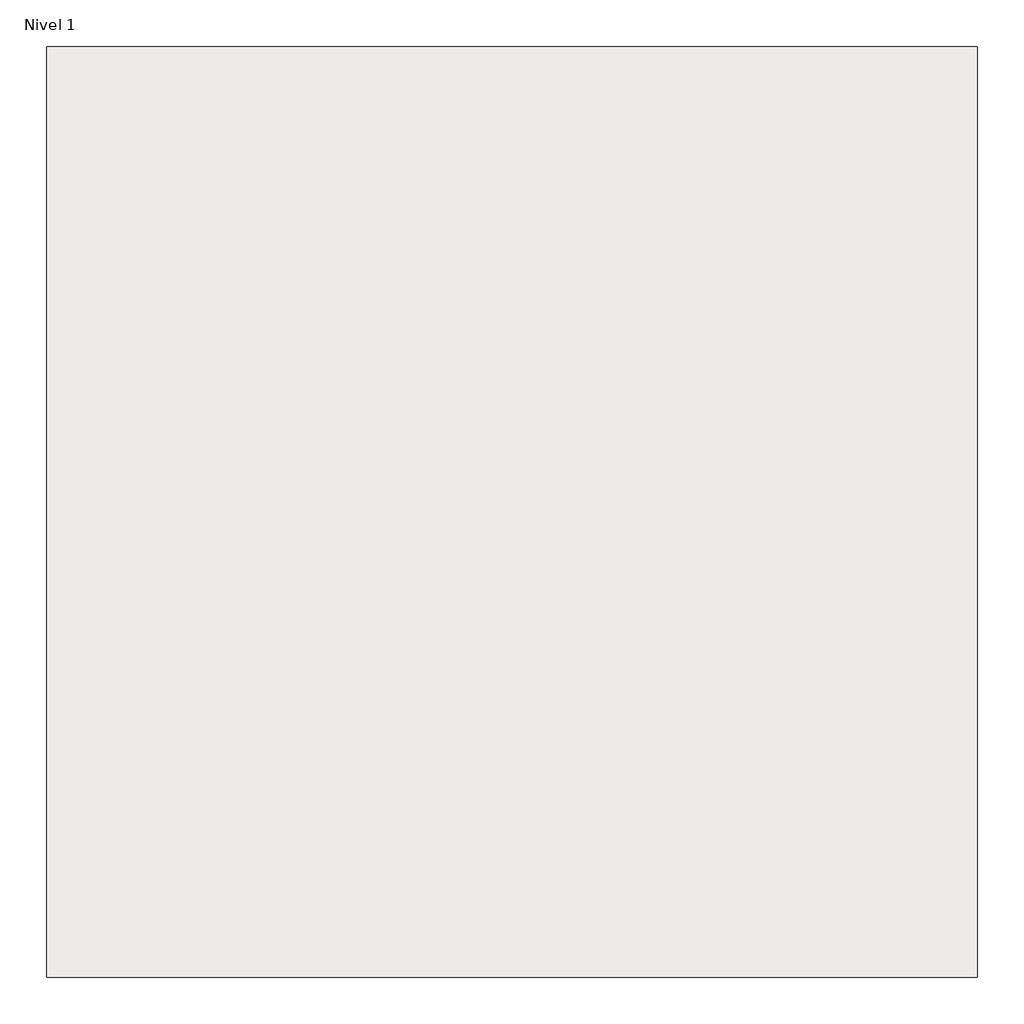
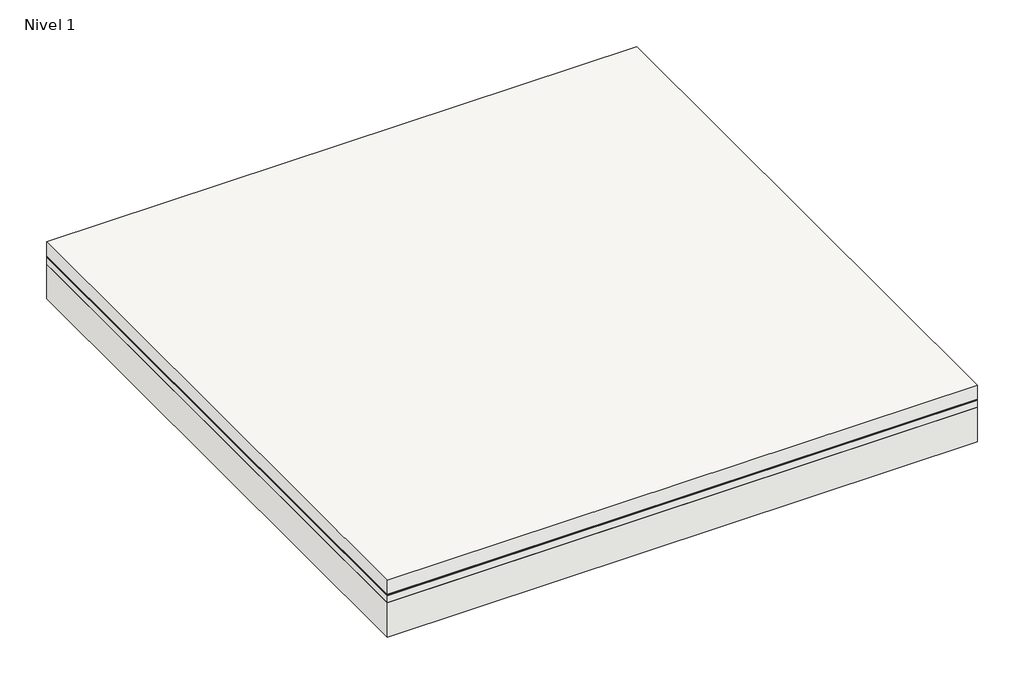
# One storey: 1 roof.
"""IFC4 building model written with IfcOpenShell, lengths in millimetres."""

from ifc_helpers import new_model, si_unit, frame, origin, origin_with_axes, place, context, project, spatial, polyline, outline, extrude, element, save

model = new_model("IFC4")

# Units and contexts
model_context = context("Model", 3, world=origin())
ifc_project = project(units=[si_unit("LENGTHUNIT", "METRE", prefix="MILLI")], contexts=[model_context])

# Site, building, storey
site = spatial("IfcSite", under=ifc_project)
building = spatial("IfcBuilding", under=site)
storey = spatial("IfcBuildingStorey", under=building, Name="Nivel 1", Elevation=0.0)

# Roof
placement = place(None, origin())
element("IfcRoof", 1, ObjectType="CubiertaPlanaConvenTrans-PeatonesPúblico_SoladoFijoLosaHormigon_BCTIH7SA", at=placement, inside=storey, context=model_context, shape_type="SweptSolid", body=[
    extrude(outline(polyline([(-2544.9527165, -3086.8428917), (-6544.9527165, -3086.8428917), (-6544.9527165, 913.1571083), (-2544.9527165, 913.1571083), (-2544.9527165, -3086.8428917)])), frame((0.0, 0.0, 308.0), z_axis=(0.0, 0.0, 1.0), x_axis=(1.0, 0.0, 0.0)), (0.0, 0.0, 1.0), 100.0),
    extrude(outline(polyline([(-2544.9527165, -3086.8428917), (-6544.9527165, -3086.8428917), (-6544.9527165, 913.1571083), (-2544.9527165, 913.1571083), (-2544.9527165, -3086.8428917)])), frame((0.0, 0.0, 306.0), z_axis=(0.0, 0.0, 1.0), x_axis=(1.0, 0.0, 0.0)), (0.0, 0.0, 1.0), 2.0),
    extrude(outline(polyline([(-2544.9527165, -3086.8428917), (-6544.9527165, -3086.8428917), (-6544.9527165, 913.1571083), (-2544.9527165, 913.1571083), (-2544.9527165, -3086.8428917)])), frame((0.0, 0.0, 304.0), z_axis=(0.0, 0.0, 1.0), x_axis=(1.0, 0.0, 0.0)), (0.0, 0.0, 1.0), 2.0),
    extrude(outline(polyline([(-2544.9527165, -3086.8428917), (-6544.9527165, -3086.8428917), (-6544.9527165, 913.1571083), (-2544.9527165, 913.1571083), (-2544.9527165, -3086.8428917)])), frame((0.0, 0.0, 302.0), z_axis=(0.0, 0.0, 1.0), x_axis=(1.0, 0.0, 0.0)), (0.0, 0.0, 1.0), 2.0),
    extrude(outline(polyline([(-2544.9527165, -3086.8428917), (-6544.9527165, -3086.8428917), (-6544.9527165, 913.1571083), (-2544.9527165, 913.1571083), (-2544.9527165, -3086.8428917)])), frame((0.0, 0.0, 300.0), z_axis=(0.0, 0.0, 1.0), x_axis=(1.0, 0.0, 0.0)), (0.0, 0.0, 1.0), 2.0),
    extrude(outline(polyline([(-2544.9527165, -3086.8428917), (-6544.9527165, -3086.8428917), (-6544.9527165, 913.1571083), (-2544.9527165, 913.1571083), (-2544.9527165, -3086.8428917)])), frame((0.0, 0.0, 250.0), z_axis=(0.0, 0.0, 1.0), x_axis=(1.0, 0.0, 0.0)), (0.0, 0.0, 1.0), 50.0),
    extrude(outline(polyline([(-2544.9527165, -3086.8428917), (-6544.9527165, -3086.8428917), (-6544.9527165, 913.1571083), (-2544.9527165, 913.1571083), (-2544.9527165, -3086.8428917)])), origin_with_axes(), (0.0, 0.0, 1.0), 250.0),
])

save(model, "model.ifc")
